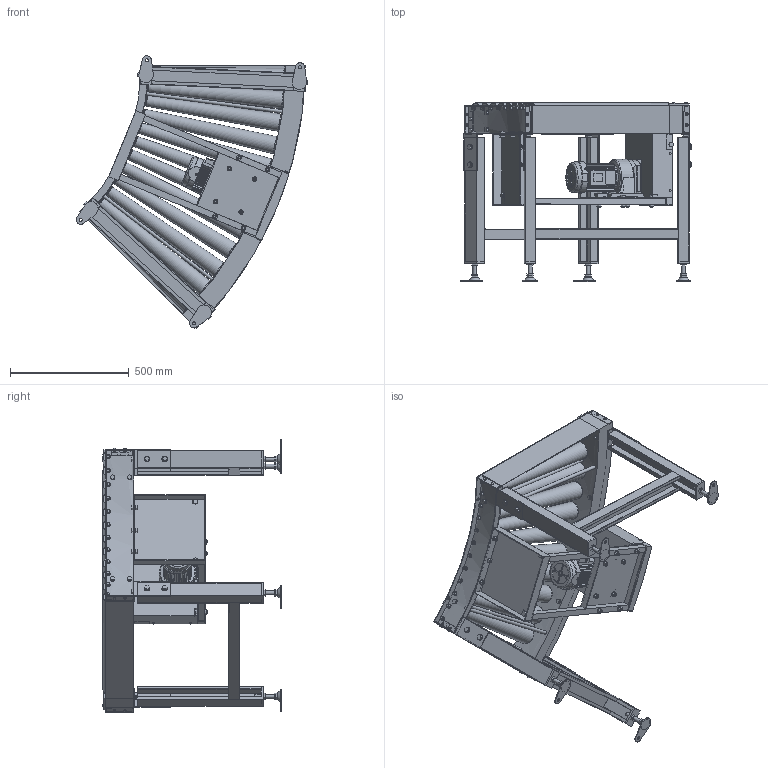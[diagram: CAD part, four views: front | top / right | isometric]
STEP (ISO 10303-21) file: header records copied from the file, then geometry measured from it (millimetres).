
FILE_DESCRIPTION( (''), '2;1');
FILE_NAME ('WEB-MCC3-45-630-75-45°-R.stp','2025-07-18T08:02:49',(''),(''),'spGate 20.6.2 (****-****-****-****)','','');
FILE_SCHEMA (('AUTOMOTIVE_DESIGN'));
Length unit declared in the file: millimetre
Products named in the file (22): WEB-MCC3-45-630-75-45_-R; TEMP_X_T-prt0; TEMP_X_T-prt1; TEMP_X_T-prt2; TEMP_X_T-prt3; TEMP_X_T-prt4; TEMP_X_T-prt5; TEMP_X_T-prt6; TEMP_X_T-prt7; TEMP_X_T-prt8; TEMP_X_T-prt9; TEMP_X_T-prt10; TEMP_X_T-prt11; TEMP_X_T-prt12; TEMP_X_T-prt13; TEMP_X_T-prt14; TEMP_X_T-prt15; TEMP_X_T-prt16; TEMP_X_T-prt17; TEMP_X_T-prt18; TEMP_X_T-prt19; TEMP_X_T-prt20
Assembly tree (21 placements, depth 2):
  WEB-MCC3-45-630-75-45_-R
    TEMP_X_T-prt0
    TEMP_X_T-prt1
    TEMP_X_T-prt2
    TEMP_X_T-prt3
    TEMP_X_T-prt4
    TEMP_X_T-prt5
    TEMP_X_T-prt6
    TEMP_X_T-prt7
    TEMP_X_T-prt8
    TEMP_X_T-prt9
    TEMP_X_T-prt10
    TEMP_X_T-prt11
    TEMP_X_T-prt12
    TEMP_X_T-prt13
    TEMP_X_T-prt14
    TEMP_X_T-prt15
    TEMP_X_T-prt16
    TEMP_X_T-prt17
    TEMP_X_T-prt18
    TEMP_X_T-prt19
    TEMP_X_T-prt20
Bounding box: 973.49 x 751 x 1145.52 mm (x, y, z)
Volume: 42151001.7 mm3; surface area: 5288283.6 mm2
Topology: 21 solids, 22 shells, 2664 faces, 6842 edges, 4538 vertices
Faces by surface type: plane 2048, cylinder 529, bspline 87
Full cylindrical faces by diameter (mm): 5 x4, 6 x28, 8 x5, 9.2 x4, 10 x46, 10.5 x4, 12 x14, 12.2 x12, 13 x12, 13.8 x12, 15 x1, 15.4 x20, 16 x16, 17.3 x12, 18 x16, 18.4 x24, 21 x4, 21.5 x1, 24 x8, 28 x13, 31 x1, 63 x1, 113.2 x1, 153 x1
Entity records: 143842 total; most frequent: CARTESIAN_POINT 22798, ORIENTED_EDGE 13682, DIRECTION 13350, COLOUR_RGB 9526, PRESENTATION_STYLE_ASSIGNMENT 9526, STYLED_ITEM 9526, EDGE_CURVE 6841, DRAUGHTING_PRE_DEFINED_CURVE_FONT 6841
